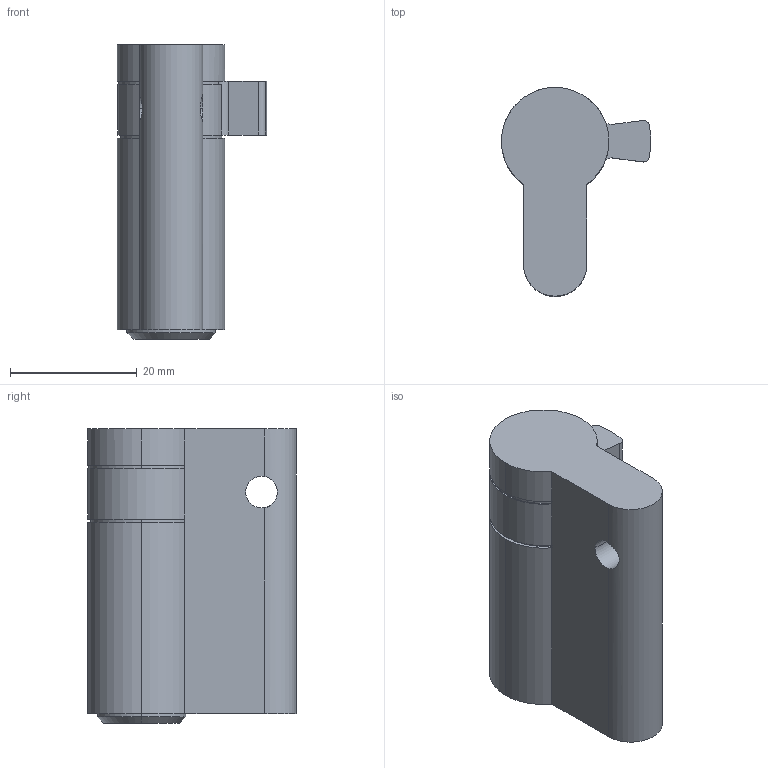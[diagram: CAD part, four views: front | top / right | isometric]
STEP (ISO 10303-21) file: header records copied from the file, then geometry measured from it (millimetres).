
FILE_DESCRIPTION (( 'STEP AP214' ), '1' );
FILE_NAME ('TPL-H-EU-007-L 29Oct2024.STEP', '2024-10-29T22:11:07', ( '' ), ( '' ), 'SwSTEP 2.0', 'SolidWorks 2023', '' );
FILE_SCHEMA (( 'AUTOMOTIVE_DESIGN' ));
Length unit declared in the file: millimetre
Products named in the file (1): TPL-H-EU-007-L 29Oct2024
Bounding box: 23.58 x 33 x 46.5 mm (x, y, z)
Volume: 17172.8 mm3; surface area: 5394.4 mm2
Topology: 1 solids, 1 shells, 45 faces, 124 edges, 78 vertices
Faces by surface type: cylinder 26, plane 16, cone 3
Entity records: 1540 total; most frequent: CARTESIAN_POINT 318, DIRECTION 271, ORIENTED_EDGE 248, EDGE_CURVE 124, AXIS2_PLACEMENT_3D 107, VERTEX_POINT 78, CIRCLE 61, VECTOR 57
